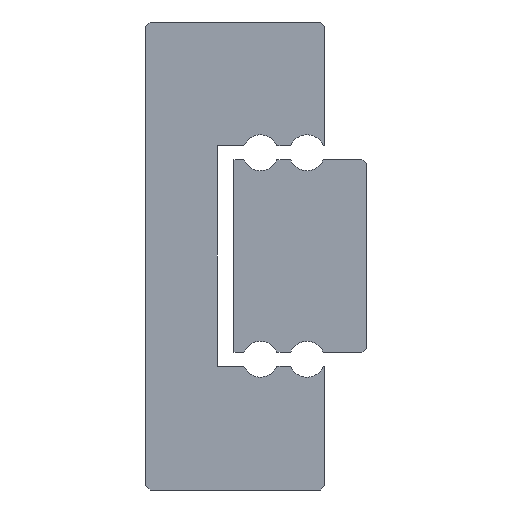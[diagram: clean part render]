
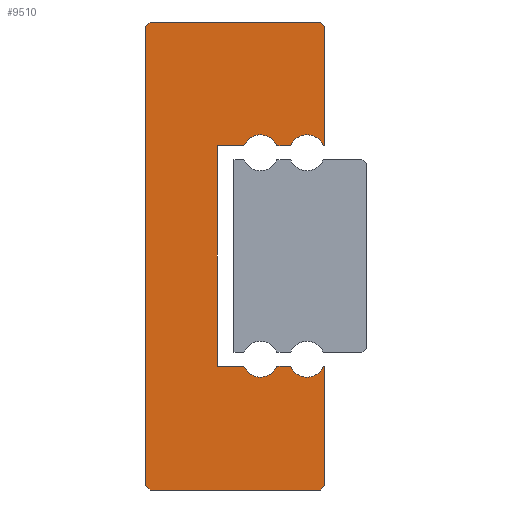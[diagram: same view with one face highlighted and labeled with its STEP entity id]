
A CAD part, left-side view. The second image highlights one B-rep face of the part: STEP entity #9510.
In plain terms, the highlighted planar face has unit normal (-1, 0, 0).
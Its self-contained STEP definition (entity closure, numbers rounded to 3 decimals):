
#316=CIRCLE('',#10336,0.65);
#318=CIRCLE('',#10340,0.65);
#320=CIRCLE('',#10346,0.65);
#322=CIRCLE('',#10350,0.65);
#1610=ORIENTED_EDGE('',*,*,#3982,.F.);
#1611=ORIENTED_EDGE('',*,*,#4432,.F.);
#1612=ORIENTED_EDGE('',*,*,#4429,.F.);
#1613=ORIENTED_EDGE('',*,*,#4416,.F.);
#1614=ORIENTED_EDGE('',*,*,#4413,.F.);
#1615=ORIENTED_EDGE('',*,*,#4410,.F.);
#1616=ORIENTED_EDGE('',*,*,#4407,.F.);
#1617=ORIENTED_EDGE('',*,*,#4404,.F.);
#1618=ORIENTED_EDGE('',*,*,#4401,.T.);
#1619=ORIENTED_EDGE('',*,*,#4398,.F.);
#1620=ORIENTED_EDGE('',*,*,#4395,.T.);
#1621=ORIENTED_EDGE('',*,*,#4392,.F.);
#1622=ORIENTED_EDGE('',*,*,#4389,.F.);
#1623=ORIENTED_EDGE('',*,*,#4386,.F.);
#1624=ORIENTED_EDGE('',*,*,#4383,.T.);
#1625=ORIENTED_EDGE('',*,*,#4380,.F.);
#1626=ORIENTED_EDGE('',*,*,#4377,.T.);
#1627=ORIENTED_EDGE('',*,*,#4374,.F.);
#1628=ORIENTED_EDGE('',*,*,#4371,.F.);
#1629=ORIENTED_EDGE('',*,*,#4368,.F.);
#3982=EDGE_CURVE('',#5430,#5431,#6410,.T.);
#4368=EDGE_CURVE('',#5431,#5816,#6548,.T.);
#4371=EDGE_CURVE('',#5816,#5818,#6551,.T.);
#4374=EDGE_CURVE('',#5818,#5820,#6554,.T.);
#4377=EDGE_CURVE('',#5822,#5820,#316,.T.);
#4380=EDGE_CURVE('',#5822,#5824,#6558,.T.);
#4383=EDGE_CURVE('',#5826,#5824,#318,.T.);
#4386=EDGE_CURVE('',#5826,#5828,#6562,.T.);
#4389=EDGE_CURVE('',#5828,#5830,#6565,.T.);
#4392=EDGE_CURVE('',#5830,#5832,#6568,.T.);
#4395=EDGE_CURVE('',#5834,#5832,#320,.T.);
#4398=EDGE_CURVE('',#5834,#5836,#6572,.T.);
#4401=EDGE_CURVE('',#5838,#5836,#322,.T.);
#4404=EDGE_CURVE('',#5838,#5840,#6576,.T.);
#4407=EDGE_CURVE('',#5840,#5842,#6579,.T.);
#4410=EDGE_CURVE('',#5842,#5844,#6582,.T.);
#4413=EDGE_CURVE('',#5844,#5846,#6585,.T.);
#4416=EDGE_CURVE('',#5846,#5848,#6588,.T.);
#4429=EDGE_CURVE('',#5848,#5860,#6591,.T.);
#4432=EDGE_CURVE('',#5860,#5430,#6594,.T.);
#5430=VERTEX_POINT('',#14555);
#5431=VERTEX_POINT('',#14556);
#5816=VERTEX_POINT('',#15328);
#5818=VERTEX_POINT('',#15334);
#5820=VERTEX_POINT('',#15340);
#5822=VERTEX_POINT('',#15346);
#5824=VERTEX_POINT('',#15352);
#5826=VERTEX_POINT('',#15358);
#5828=VERTEX_POINT('',#15364);
#5830=VERTEX_POINT('',#15370);
#5832=VERTEX_POINT('',#15376);
#5834=VERTEX_POINT('',#15382);
#5836=VERTEX_POINT('',#15388);
#5838=VERTEX_POINT('',#15394);
#5840=VERTEX_POINT('',#15400);
#5842=VERTEX_POINT('',#15406);
#5844=VERTEX_POINT('',#15412);
#5846=VERTEX_POINT('',#15418);
#5848=VERTEX_POINT('',#15424);
#5860=VERTEX_POINT('',#15450);
#6410=LINE('',#14554,#7226);
#6548=LINE('',#15327,#7364);
#6551=LINE('',#15333,#7367);
#6554=LINE('',#15339,#7370);
#6558=LINE('',#15351,#7374);
#6562=LINE('',#15363,#7378);
#6565=LINE('',#15369,#7381);
#6568=LINE('',#15375,#7384);
#6572=LINE('',#15387,#7388);
#6576=LINE('',#15399,#7392);
#6579=LINE('',#15405,#7395);
#6582=LINE('',#15411,#7398);
#6585=LINE('',#15417,#7401);
#6588=LINE('',#15423,#7404);
#6591=LINE('',#15449,#7407);
#6594=LINE('',#15455,#7410);
#7226=VECTOR('',#11363,1000.);
#7364=VECTOR('',#11999,1000.);
#7367=VECTOR('',#12004,1000.);
#7370=VECTOR('',#12009,1000.);
#7374=VECTOR('',#12021,1000.);
#7378=VECTOR('',#12033,1000.);
#7381=VECTOR('',#12038,1000.);
#7384=VECTOR('',#12043,1000.);
#7388=VECTOR('',#12055,1000.);
#7392=VECTOR('',#12067,1000.);
#7395=VECTOR('',#12072,1000.);
#7398=VECTOR('',#12077,1000.);
#7401=VECTOR('',#12082,1000.);
#7404=VECTOR('',#12087,1000.);
#7407=VECTOR('',#12112,1000.);
#7410=VECTOR('',#12117,1000.);
#8104=EDGE_LOOP('',(#1610,#1611,#1612,#1613,#1614,#1615,#1616,#1617,#1618,
#1619,#1620,#1621,#1622,#1623,#1624,#1625,#1626,#1627,#1628,#1629));
#8724=FACE_BOUND('',#8104,.T.);
#9277=PLANE('',#10370);
#9510=ADVANCED_FACE('',(#8724),#9277,.F.);
#10336=AXIS2_PLACEMENT_3D('',#15345,#12014,#12015);
#10340=AXIS2_PLACEMENT_3D('',#15357,#12026,#12027);
#10346=AXIS2_PLACEMENT_3D('',#15381,#12048,#12049);
#10350=AXIS2_PLACEMENT_3D('',#15393,#12060,#12061);
#10370=AXIS2_PLACEMENT_3D('',#15458,#12121,#12122);
#11363=DIRECTION('',(0.,-1.,0.));
#11999=DIRECTION('',(0.,-0.707,-0.707));
#12004=DIRECTION('',(0.,0.,-1.));
#12009=DIRECTION('',(0.,1.,0.));
#12014=DIRECTION('',(1.,0.,0.));
#12015=DIRECTION('',(0.,0.,-1.));
#12021=DIRECTION('',(0.,1.,0.));
#12026=DIRECTION('',(1.,0.,0.));
#12027=DIRECTION('',(0.,0.,-1.));
#12033=DIRECTION('',(0.,1.,0.));
#12038=DIRECTION('',(0.,0.,-1.));
#12043=DIRECTION('',(0.,-1.,0.));
#12048=DIRECTION('',(1.,0.,0.));
#12049=DIRECTION('',(0.,0.,-1.));
#12055=DIRECTION('',(0.,-1.,0.));
#12060=DIRECTION('',(1.,0.,0.));
#12061=DIRECTION('',(0.,0.,-1.));
#12067=DIRECTION('',(0.,-1.,0.));
#12072=DIRECTION('',(0.,0.,-1.));
#12077=DIRECTION('',(0.,0.707,-0.707));
#12082=DIRECTION('',(0.,1.,0.));
#12087=DIRECTION('',(0.,0.707,0.707));
#12112=DIRECTION('',(0.,0.,1.));
#12117=DIRECTION('',(0.,-0.707,0.707));
#12121=DIRECTION('',(1.,0.,0.));
#12122=DIRECTION('',(0.,0.,-1.));
#14554=CARTESIAN_POINT('',(-30.,6.35,8.5));
#14555=CARTESIAN_POINT('',(-30.,6.35,8.5));
#14556=CARTESIAN_POINT('',(-30.,0.15,8.5));
#15327=CARTESIAN_POINT('',(-30.,0.15,8.5));
#15328=CARTESIAN_POINT('',(-30.,0.,8.35));
#15333=CARTESIAN_POINT('',(-30.,0.,8.35));
#15334=CARTESIAN_POINT('',(-30.,0.,4.));
#15339=CARTESIAN_POINT('',(-30.,0.,4.));
#15340=CARTESIAN_POINT('',(-30.,0.05,4.));
#15345=CARTESIAN_POINT('',(-30.,0.65,3.75));
#15346=CARTESIAN_POINT('',(-30.,1.25,4.));
#15351=CARTESIAN_POINT('',(-30.,1.25,4.));
#15352=CARTESIAN_POINT('',(-30.,1.74,4.));
#15357=CARTESIAN_POINT('',(-30.,2.34,3.75));
#15358=CARTESIAN_POINT('',(-30.,2.94,4.));
#15363=CARTESIAN_POINT('',(-30.,2.94,4.));
#15364=CARTESIAN_POINT('',(-30.,3.9,4.));
#15369=CARTESIAN_POINT('',(-30.,3.9,4.));
#15370=CARTESIAN_POINT('',(-30.,3.9,-4.));
#15375=CARTESIAN_POINT('',(-30.,3.9,-4.));
#15376=CARTESIAN_POINT('',(-30.,2.94,-4.));
#15381=CARTESIAN_POINT('',(-30.,2.34,-3.75));
#15382=CARTESIAN_POINT('',(-30.,1.74,-4.));
#15387=CARTESIAN_POINT('',(-30.,1.74,-4.));
#15388=CARTESIAN_POINT('',(-30.,1.25,-4.));
#15393=CARTESIAN_POINT('',(-30.,0.65,-3.75));
#15394=CARTESIAN_POINT('',(-30.,0.05,-4.));
#15399=CARTESIAN_POINT('',(-30.,0.05,-4.));
#15400=CARTESIAN_POINT('',(-30.,0.,-4.));
#15405=CARTESIAN_POINT('',(-30.,0.,-4.));
#15406=CARTESIAN_POINT('',(-30.,0.,-8.35));
#15411=CARTESIAN_POINT('',(-30.,0.,-8.35));
#15412=CARTESIAN_POINT('',(-30.,0.15,-8.5));
#15417=CARTESIAN_POINT('',(-30.,0.15,-8.5));
#15418=CARTESIAN_POINT('',(-30.,6.35,-8.5));
#15423=CARTESIAN_POINT('',(-30.,6.35,-8.5));
#15424=CARTESIAN_POINT('',(-30.,6.5,-8.35));
#15449=CARTESIAN_POINT('',(-30.,6.5,-8.35));
#15450=CARTESIAN_POINT('',(-30.,6.5,8.35));
#15455=CARTESIAN_POINT('',(-30.,6.5,8.35));
#15458=CARTESIAN_POINT('',(-30.,0.65,3.75));
